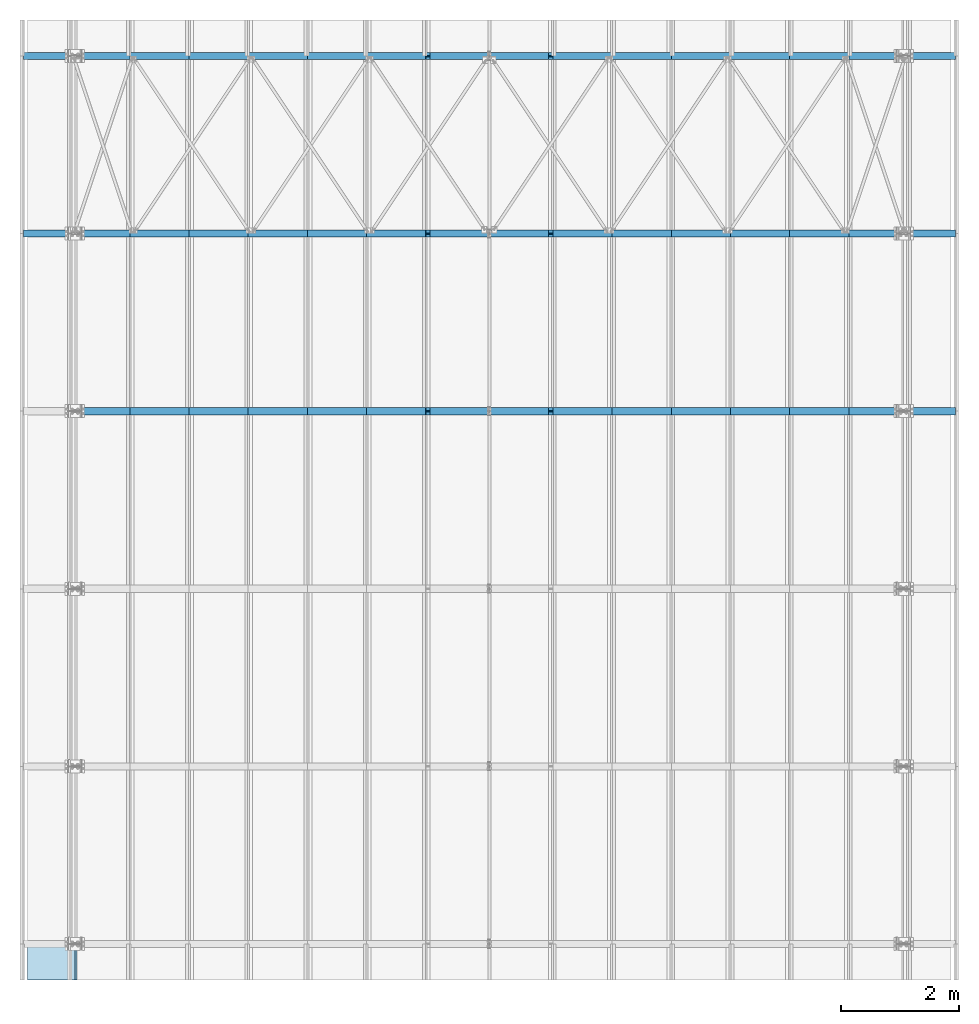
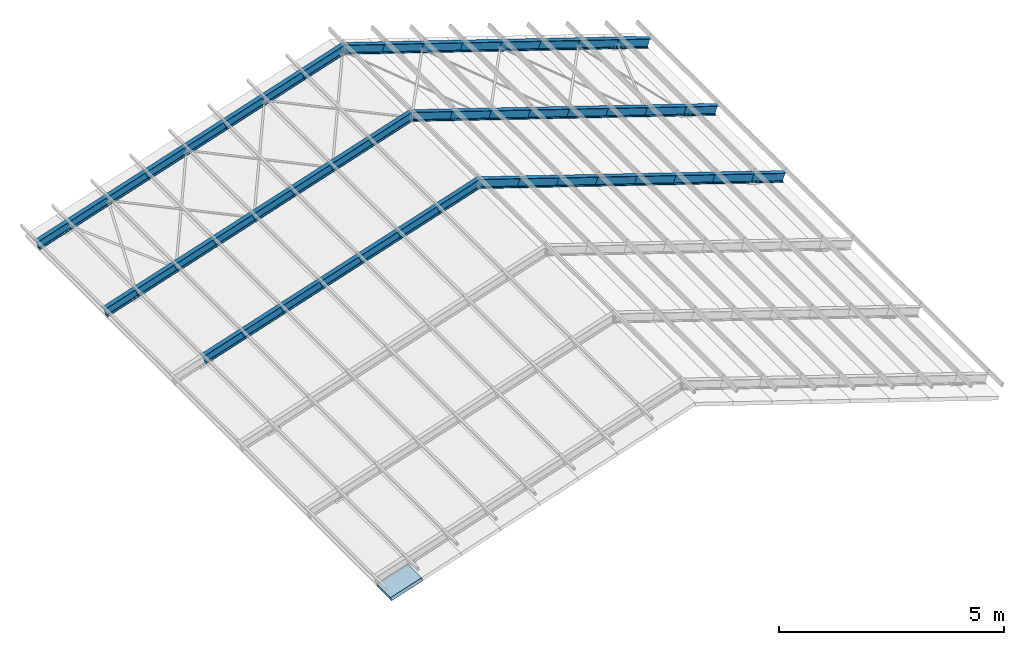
# One storey, part 2 of 53: 47 beams, 1 slab.
"""IFC4 building model written with IfcOpenShell, lengths in metres."""

from ifc_helpers import new_model, si_unit, frame, origin_with_axes, origin_2d_with_axis, place, context, project, spatial, polyline, i_section, l_section, outline, extrude, clip, halfspace, material, material_profile, profile_set, profile_usage, type_object, element, save


model = new_model("IFC4")

# Units and contexts
model_context = context("Model", 3, precision=1e-05, world=origin_with_axes())
ifc_project = project(units=[si_unit("LENGTHUNIT", "METRE"), si_unit("AREAUNIT", "SQUARE_METRE"), si_unit("VOLUMEUNIT", "CUBIC_METRE"), si_unit("MASSUNIT", "GRAM", prefix="KILO"), si_unit("TIMEUNIT", "SECOND"), si_unit("PLANEANGLEUNIT", "RADIAN"), si_unit("SOLIDANGLEUNIT", "STERADIAN"), si_unit("THERMODYNAMICTEMPERATUREUNIT", "DEGREE_CELSIUS")], contexts=[model_context])

# Site, building, storey
placement_1 = place(None, origin_with_axes())
site = spatial("IfcSite", under=ifc_project, at=placement_1, Name="Italia", CompositionType="ELEMENT")
building = spatial("IfcBuilding", under=site, at=placement_1, Name="Capannone", CompositionType="ELEMENT")
storey_placement = place(None, frame((0.0, 0.0, 5.550000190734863), z_axis=(0.0, 0.0, 1.0), x_axis=(1.0, 0.0, 0.0)))
storey = spatial("IfcBuildingStorey", under=building, at=storey_placement, Name="Storey 1", CompositionType="ELEMENT", Elevation=5.550000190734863)

# Beams
ifc_material_1 = material(Name="Acciaio", Category="Acciaio")
ifc_material_profile = material_profile(ifc_material_1, l_section(Depth=0.045, Width=0.045, Thickness=0.004, FilletRadius=0.0, EdgeRadius=0.0, at=origin_2d_with_axis()), Name="2 L45x4")
ifc_profile_set = profile_set([ifc_material_profile])
ifc_profile_usage_1 = profile_usage(ifc_profile_set, cardinal=8)
beam_type_1 = type_object("IfcBeamType", Name="3 IPE240", PredefinedType="BEAM", material=ifc_profile_usage_1)
placement_2 = place(placement_1, origin_with_axes())
beam_1_placement = place(placement_2, origin_with_axes())
element("IfcBeam", 1, at=beam_1_placement, inside=storey, type_object=beam_type_1, Name="105", context=model_context, shape_type="SweptSolid", body=[
    extrude(i_section(OverallWidth=0.12, OverallDepth=0.24, WebThickness=0.0062, FlangeThickness=0.0098, FilletRadius=0.015, at=origin_2d_with_axis()), frame((-0.837458, 12.0, 5.40115), z_axis=(0.950031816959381, 0.0, 0.312153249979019), x_axis=(0.0, 1.0, 0.0)), (0.0, 0.0, 1.0), 0.842077),
])
ifc_profile_usage_2 = profile_usage(ifc_profile_set, cardinal=8)
beam_type_2 = type_object("IfcBeamType", Name="3 IPE240", PredefinedType="BEAM", material=ifc_profile_usage_2)
beam_2_placement = place(placement_2, origin_with_axes())
element("IfcBeam", 2, at=beam_2_placement, inside=storey, type_object=beam_type_2, Name="106", context=model_context, shape_type="SweptSolid", body=[
    extrude(i_section(OverallWidth=0.12, OverallDepth=0.24, WebThickness=0.0062, FlangeThickness=0.0098, FilletRadius=0.015, at=origin_2d_with_axis()), frame((-0.837458, 15.0, 5.40115), z_axis=(0.950031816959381, 0.0, 0.312153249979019), x_axis=(0.0, 1.0, 0.0)), (0.0, 0.0, 1.0), 0.842077),
])
ifc_profile_usage_3 = profile_usage(ifc_profile_set, cardinal=8)
beam_type_3 = type_object("IfcBeamType", Name="3 IPE240", PredefinedType="BEAM", material=ifc_profile_usage_3)
beam_3_placement = place(placement_2, origin_with_axes())
element("IfcBeam", 3, at=beam_3_placement, inside=storey, type_object=beam_type_3, Name="145", context=model_context, shape_type="SweptSolid", body=[
    extrude(i_section(OverallWidth=0.12, OverallDepth=0.24, WebThickness=0.0062, FlangeThickness=0.0098, FilletRadius=0.015, at=origin_2d_with_axis()), frame((14.8375, 15.0, 5.40115), z_axis=(-0.950031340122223, 0.0, 0.31215438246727), x_axis=(0.0, -1.0, 0.0)), (0.0, 0.0, 1.0), 0.842077),
])
ifc_profile_usage_4 = profile_usage(ifc_profile_set, cardinal=8)
beam_type_4 = type_object("IfcBeamType", Name="3 IPE240", PredefinedType="BEAM", material=ifc_profile_usage_4)
beam_4_placement = place(placement_2, origin_with_axes())
element("IfcBeam", 4, at=beam_4_placement, inside=storey, type_object=beam_type_4, Name="144", context=model_context, shape_type="SweptSolid", body=[
    extrude(i_section(OverallWidth=0.12, OverallDepth=0.24, WebThickness=0.0062, FlangeThickness=0.0098, FilletRadius=0.015, at=origin_2d_with_axis()), frame((14.8375, 12.0, 5.40115), z_axis=(-0.950031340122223, 0.0, 0.31215438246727), x_axis=(0.0, -1.0, 0.0)), (0.0, 0.0, 1.0), 0.842077),
])
ifc_profile_usage_5 = profile_usage(ifc_profile_set, cardinal=8)
beam_type_5 = type_object("IfcBeamType", Name="3 IPE240", PredefinedType="BEAM", material=ifc_profile_usage_5)
beam_5_placement = place(placement_2, origin_with_axes())
element("IfcBeam", 5, at=beam_5_placement, inside=storey, type_object=beam_type_5, Name="143", context=model_context, shape_type="SweptSolid", body=[
    extrude(i_section(OverallWidth=0.12, OverallDepth=0.24, WebThickness=0.0062, FlangeThickness=0.0098, FilletRadius=0.015, at=origin_2d_with_axis()), frame((14.8375, 9.0, 5.40115), z_axis=(-0.950031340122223, 0.0, 0.31215438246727), x_axis=(0.0, -1.0, 0.0)), (0.0, 0.0, 1.0), 0.842077),
])
ifc_profile_usage_6 = profile_usage(ifc_profile_set, cardinal=8)
beam_type_6 = type_object("IfcBeamType", Name="3 IPE240", PredefinedType="BEAM", material=ifc_profile_usage_6)
beam_6_placement = place(placement_2, frame((5.962541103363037, 15.0, 7.63543176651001), z_axis=(0.0, 0.0, 1.0), x_axis=(1.0, 0.0, 0.0)))
element("IfcBeam", 6, at=beam_6_placement, inside=storey, type_object=beam_type_6, Name="106", context=model_context, shape_type="Clipping", body=[
    clip(extrude(i_section(OverallWidth=0.12, OverallDepth=0.24, WebThickness=0.0062, FlangeThickness=0.0098, FilletRadius=0.015, at=origin_2d_with_axis()), frame((0.0, 0.0, 0.0), z_axis=(0.950031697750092, 0.0, 0.312153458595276), x_axis=(0.0, 1.0, 0.0)), (0.0, 0.0, 1.0), 1.57889), halfspace(frame((1.05246, -9.53674e-07, 0.335952), z_axis=(1.0, 9.24e-13, 4.6227811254e-05), x_axis=(-9.24e-13, 1.0, 0.0)), False)),
])
ifc_profile_usage_7 = profile_usage(ifc_profile_set, cardinal=8)
beam_type_7 = type_object("IfcBeamType", Name="3 IPE240", PredefinedType="BEAM", material=ifc_profile_usage_7)
beam_7_placement = place(placement_2, origin_with_axes())
element("IfcBeam", 7, at=beam_7_placement, inside=storey, type_object=beam_type_7, Name="106", context=model_context, shape_type="SweptSolid", body=[
    extrude(i_section(OverallWidth=0.12, OverallDepth=0.24, WebThickness=0.0062, FlangeThickness=0.0098, FilletRadius=0.015, at=origin_2d_with_axis()), frame((4.96254, 15.0, 7.30686), z_axis=(0.950031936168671, 0.0, 0.312152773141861), x_axis=(0.0, 1.0, 0.0)), (0.0, 0.0, 1.0), 1.0526),
])
ifc_profile_usage_8 = profile_usage(ifc_profile_set, cardinal=8)
beam_type_8 = type_object("IfcBeamType", Name="3 IPE240", PredefinedType="BEAM", material=ifc_profile_usage_8)
beam_8_placement = place(placement_2, origin_with_axes())
element("IfcBeam", 8, at=beam_8_placement, inside=storey, type_object=beam_type_8, Name="106", context=model_context, shape_type="SweptSolid", body=[
    extrude(i_section(OverallWidth=0.12, OverallDepth=0.24, WebThickness=0.0062, FlangeThickness=0.0098, FilletRadius=0.015, at=origin_2d_with_axis()), frame((3.96254, 15.0, 6.97829), z_axis=(0.950031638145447, 0.0, 0.312153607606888), x_axis=(0.0, 1.0, 0.0)), (0.0, 0.0, 1.0), 1.0526),
])
ifc_profile_usage_9 = profile_usage(ifc_profile_set, cardinal=8)
beam_type_9 = type_object("IfcBeamType", Name="3 IPE240", PredefinedType="BEAM", material=ifc_profile_usage_9)
beam_9_placement = place(placement_2, origin_with_axes())
element("IfcBeam", 9, at=beam_9_placement, inside=storey, type_object=beam_type_9, Name="106", context=model_context, shape_type="SweptSolid", body=[
    extrude(i_section(OverallWidth=0.12, OverallDepth=0.24, WebThickness=0.0062, FlangeThickness=0.0098, FilletRadius=0.015, at=origin_2d_with_axis()), frame((2.96254, 15.0, 6.64972), z_axis=(0.950031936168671, 0.0, 0.312152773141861), x_axis=(0.0, 1.0, 0.0)), (0.0, 0.0, 1.0), 1.0526),
])
ifc_profile_usage_10 = profile_usage(ifc_profile_set, cardinal=8)
beam_type_10 = type_object("IfcBeamType", Name="3 IPE240", PredefinedType="BEAM", material=ifc_profile_usage_10)
beam_10_placement = place(placement_2, origin_with_axes())
element("IfcBeam", 10, at=beam_10_placement, inside=storey, type_object=beam_type_10, Name="106", context=model_context, shape_type="SweptSolid", body=[
    extrude(i_section(OverallWidth=0.12, OverallDepth=0.24, WebThickness=0.0062, FlangeThickness=0.0098, FilletRadius=0.015, at=origin_2d_with_axis()), frame((1.96254, 15.0, 6.32115), z_axis=(0.950031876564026, 0.0, 0.312152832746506), x_axis=(0.0, 1.0, 0.0)), (0.0, 0.0, 1.0), 1.0526),
])
ifc_profile_usage_11 = profile_usage(ifc_profile_set, cardinal=8)
beam_type_11 = type_object("IfcBeamType", Name="3 IPE240", PredefinedType="BEAM", material=ifc_profile_usage_11)
beam_11_placement = place(placement_2, origin_with_axes())
element("IfcBeam", 11, at=beam_11_placement, inside=storey, type_object=beam_type_11, Name="106", context=model_context, shape_type="SweptSolid", body=[
    extrude(i_section(OverallWidth=0.12, OverallDepth=0.24, WebThickness=0.0062, FlangeThickness=0.0098, FilletRadius=0.015, at=origin_2d_with_axis()), frame((0.962542, 15.0, 5.99257), z_axis=(0.950031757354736, 0.0, 0.312153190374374), x_axis=(0.0, 1.0, 0.0)), (0.0, 0.0, 1.0), 1.0526),
])
ifc_profile_usage_12 = profile_usage(ifc_profile_set, cardinal=8)
beam_type_12 = type_object("IfcBeamType", Name="3 IPE240", PredefinedType="BEAM", material=ifc_profile_usage_12)
beam_12_placement = place(placement_2, origin_with_axes())
element("IfcBeam", 12, at=beam_12_placement, inside=storey, type_object=beam_type_12, Name="145", context=model_context, shape_type="SweptSolid", body=[
    extrude(i_section(OverallWidth=0.12, OverallDepth=0.24, WebThickness=0.0062, FlangeThickness=0.0098, FilletRadius=0.015, at=origin_2d_with_axis()), frame((14.0375, 15.0, 5.664), z_axis=(-0.950031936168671, 0.0, 0.312152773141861), x_axis=(0.0, -1.0, 0.0)), (0.0, 0.0, 1.0), 1.0526),
])
ifc_profile_usage_13 = profile_usage(ifc_profile_set, cardinal=8)
beam_type_13 = type_object("IfcBeamType", Name="3 IPE240", PredefinedType="BEAM", material=ifc_profile_usage_13)
beam_13_placement = place(placement_2, origin_with_axes())
element("IfcBeam", 13, at=beam_13_placement, inside=storey, type_object=beam_type_13, Name="145", context=model_context, shape_type="SweptSolid", body=[
    extrude(i_section(OverallWidth=0.12, OverallDepth=0.24, WebThickness=0.0062, FlangeThickness=0.0098, FilletRadius=0.015, at=origin_2d_with_axis()), frame((13.0375, 15.0, 5.99258), z_axis=(-0.950031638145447, 0.0, 0.312153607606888), x_axis=(0.0, -1.0, 0.0)), (0.0, 0.0, 1.0), 1.0526),
])
ifc_profile_usage_14 = profile_usage(ifc_profile_set, cardinal=8)
beam_type_14 = type_object("IfcBeamType", Name="3 IPE240", PredefinedType="BEAM", material=ifc_profile_usage_14)
beam_14_placement = place(placement_2, origin_with_axes())
element("IfcBeam", 14, at=beam_14_placement, inside=storey, type_object=beam_type_14, Name="145", context=model_context, shape_type="SweptSolid", body=[
    extrude(i_section(OverallWidth=0.12, OverallDepth=0.24, WebThickness=0.0062, FlangeThickness=0.0098, FilletRadius=0.015, at=origin_2d_with_axis()), frame((12.0375, 15.0, 6.32115), z_axis=(-0.950031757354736, 0.0, 0.312153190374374), x_axis=(0.0, -1.0, 0.0)), (0.0, 0.0, 1.0), 1.0526),
])
ifc_profile_usage_15 = profile_usage(ifc_profile_set, cardinal=8)
beam_type_15 = type_object("IfcBeamType", Name="3 IPE240", PredefinedType="BEAM", material=ifc_profile_usage_15)
beam_15_placement = place(placement_2, origin_with_axes())
element("IfcBeam", 15, at=beam_15_placement, inside=storey, type_object=beam_type_15, Name="145", context=model_context, shape_type="SweptSolid", body=[
    extrude(i_section(OverallWidth=0.12, OverallDepth=0.24, WebThickness=0.0062, FlangeThickness=0.0098, FilletRadius=0.015, at=origin_2d_with_axis()), frame((11.0375, 15.0, 6.64972), z_axis=(-0.950031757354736, 0.0, 0.312153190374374), x_axis=(0.0, -1.0, 0.0)), (0.0, 0.0, 1.0), 1.0526),
])
ifc_profile_usage_16 = profile_usage(ifc_profile_set, cardinal=8)
beam_type_16 = type_object("IfcBeamType", Name="3 IPE240", PredefinedType="BEAM", material=ifc_profile_usage_16)
beam_16_placement = place(placement_2, origin_with_axes())
element("IfcBeam", 16, at=beam_16_placement, inside=storey, type_object=beam_type_16, Name="145", context=model_context, shape_type="SweptSolid", body=[
    extrude(i_section(OverallWidth=0.12, OverallDepth=0.24, WebThickness=0.0062, FlangeThickness=0.0098, FilletRadius=0.015, at=origin_2d_with_axis()), frame((10.0375, 15.0, 6.97829), z_axis=(-0.950031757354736, 0.0, 0.312153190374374), x_axis=(0.0, -1.0, 0.0)), (0.0, 0.0, 1.0), 1.0526),
])
ifc_profile_usage_17 = profile_usage(ifc_profile_set, cardinal=8)
beam_type_17 = type_object("IfcBeamType", Name="3 IPE240", PredefinedType="BEAM", material=ifc_profile_usage_17)
beam_17_placement = place(placement_2, origin_with_axes())
element("IfcBeam", 17, at=beam_17_placement, inside=storey, type_object=beam_type_17, Name="145", context=model_context, shape_type="SweptSolid", body=[
    extrude(i_section(OverallWidth=0.12, OverallDepth=0.24, WebThickness=0.0062, FlangeThickness=0.0098, FilletRadius=0.015, at=origin_2d_with_axis()), frame((9.03746, 15.0, 7.30686), z_axis=(-0.950031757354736, 0.0, 0.312153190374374), x_axis=(0.0, -1.0, 0.0)), (0.0, 0.0, 1.0), 1.0526),
])
ifc_profile_usage_18 = profile_usage(ifc_profile_set, cardinal=8)
beam_type_18 = type_object("IfcBeamType", Name="3 IPE240", PredefinedType="BEAM", material=ifc_profile_usage_18)
beam_18_placement = place(placement_2, origin_with_axes())
element("IfcBeam", 18, at=beam_18_placement, inside=storey, type_object=beam_type_18, Name="104", context=model_context, shape_type="SweptSolid", body=[
    extrude(i_section(OverallWidth=0.12, OverallDepth=0.24, WebThickness=0.0062, FlangeThickness=0.0098, FilletRadius=0.015, at=origin_2d_with_axis()), frame((-0.0374584, 9.0, 5.664), z_axis=(0.950031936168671, 0.0, 0.312152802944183), x_axis=(0.0, 1.0, 0.0)), (0.0, 0.0, 1.0), 1.0526),
])
ifc_profile_usage_19 = profile_usage(ifc_profile_set, cardinal=8)
beam_type_19 = type_object("IfcBeamType", Name="3 IPE240", PredefinedType="BEAM", material=ifc_profile_usage_19)
beam_19_placement = place(placement_2, origin_with_axes())
element("IfcBeam", 19, at=beam_19_placement, inside=storey, type_object=beam_type_19, Name="104", context=model_context, shape_type="SweptSolid", body=[
    extrude(i_section(OverallWidth=0.12, OverallDepth=0.24, WebThickness=0.0062, FlangeThickness=0.0098, FilletRadius=0.015, at=origin_2d_with_axis()), frame((0.962542, 9.0, 5.99258), z_axis=(0.950031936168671, 0.0, 0.312152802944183), x_axis=(0.0, 1.0, 0.0)), (0.0, 0.0, 1.0), 1.0526),
])
ifc_profile_usage_20 = profile_usage(ifc_profile_set, cardinal=8)
beam_type_20 = type_object("IfcBeamType", Name="3 IPE240", PredefinedType="BEAM", material=ifc_profile_usage_20)
beam_20_placement = place(placement_2, origin_with_axes())
element("IfcBeam", 20, at=beam_20_placement, inside=storey, type_object=beam_type_20, Name="104", context=model_context, shape_type="SweptSolid", body=[
    extrude(i_section(OverallWidth=0.12, OverallDepth=0.24, WebThickness=0.0062, FlangeThickness=0.0098, FilletRadius=0.015, at=origin_2d_with_axis()), frame((1.96254, 9.0, 6.32115), z_axis=(0.950031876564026, 0.0, 0.312152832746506), x_axis=(0.0, 1.0, 0.0)), (0.0, 0.0, 1.0), 1.0526),
])
ifc_profile_usage_21 = profile_usage(ifc_profile_set, cardinal=8)
beam_type_21 = type_object("IfcBeamType", Name="3 IPE240", PredefinedType="BEAM", material=ifc_profile_usage_21)
beam_21_placement = place(placement_2, origin_with_axes())
element("IfcBeam", 21, at=beam_21_placement, inside=storey, type_object=beam_type_21, Name="104", context=model_context, shape_type="SweptSolid", body=[
    extrude(i_section(OverallWidth=0.12, OverallDepth=0.24, WebThickness=0.0062, FlangeThickness=0.0098, FilletRadius=0.015, at=origin_2d_with_axis()), frame((2.96254, 9.0, 6.64972), z_axis=(0.950031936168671, 0.0, 0.312152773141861), x_axis=(0.0, 1.0, 0.0)), (0.0, 0.0, 1.0), 1.0526),
])
ifc_profile_usage_22 = profile_usage(ifc_profile_set, cardinal=8)
beam_type_22 = type_object("IfcBeamType", Name="3 IPE240", PredefinedType="BEAM", material=ifc_profile_usage_22)
beam_22_placement = place(placement_2, origin_with_axes())
element("IfcBeam", 22, at=beam_22_placement, inside=storey, type_object=beam_type_22, Name="104", context=model_context, shape_type="SweptSolid", body=[
    extrude(i_section(OverallWidth=0.12, OverallDepth=0.24, WebThickness=0.0062, FlangeThickness=0.0098, FilletRadius=0.015, at=origin_2d_with_axis()), frame((3.96254, 9.0, 6.97829), z_axis=(0.950031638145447, 0.0, 0.312153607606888), x_axis=(0.0, 1.0, 0.0)), (0.0, 0.0, 1.0), 1.0526),
])
ifc_profile_usage_23 = profile_usage(ifc_profile_set, cardinal=8)
beam_type_23 = type_object("IfcBeamType", Name="3 IPE240", PredefinedType="BEAM", material=ifc_profile_usage_23)
beam_23_placement = place(placement_2, origin_with_axes())
element("IfcBeam", 23, at=beam_23_placement, inside=storey, type_object=beam_type_23, Name="104", context=model_context, shape_type="SweptSolid", body=[
    extrude(i_section(OverallWidth=0.12, OverallDepth=0.24, WebThickness=0.0062, FlangeThickness=0.0098, FilletRadius=0.015, at=origin_2d_with_axis()), frame((4.96254, 9.0, 7.30686), z_axis=(0.950031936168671, 0.0, 0.312152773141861), x_axis=(0.0, 1.0, 0.0)), (0.0, 0.0, 1.0), 1.0526),
])
ifc_profile_usage_24 = profile_usage(ifc_profile_set, cardinal=8)
beam_type_24 = type_object("IfcBeamType", Name="3 IPE240", PredefinedType="BEAM", material=ifc_profile_usage_24)
beam_24_placement = place(placement_2, frame((8.037457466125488, 8.999999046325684, 7.635433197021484), z_axis=(0.0, 0.0, 1.0), x_axis=(1.0, 0.0, 0.0)))
element("IfcBeam", 24, at=beam_24_placement, inside=storey, type_object=beam_type_24, Name="143", context=model_context, shape_type="Clipping", body=[
    clip(extrude(i_section(OverallWidth=0.12, OverallDepth=0.24, WebThickness=0.0062, FlangeThickness=0.0098, FilletRadius=0.015, at=origin_2d_with_axis()), frame((0.0, 0.0, 0.0), z_axis=(-0.950031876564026, 0.0, 0.312152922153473), x_axis=(0.0, -1.0, 0.0)), (0.0, 0.0, 1.0), 1.57889), halfspace(frame((-1.02245, 0.0, 0.335951), z_axis=(1.0, 9.24e-13, 4.6227811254e-05), x_axis=(-9.24e-13, 1.0, 0.0)), True)),
])
ifc_profile_usage_25 = profile_usage(ifc_profile_set, cardinal=8)
beam_type_25 = type_object("IfcBeamType", Name="3 IPE240", PredefinedType="BEAM", material=ifc_profile_usage_25)
beam_25_placement = place(placement_2, origin_with_axes())
element("IfcBeam", 25, at=beam_25_placement, inside=storey, type_object=beam_type_25, Name="143", context=model_context, shape_type="SweptSolid", body=[
    extrude(i_section(OverallWidth=0.12, OverallDepth=0.24, WebThickness=0.0062, FlangeThickness=0.0098, FilletRadius=0.015, at=origin_2d_with_axis()), frame((9.03746, 9.0, 7.30686), z_axis=(-0.950031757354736, 0.0, 0.312153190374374), x_axis=(0.0, -1.0, 0.0)), (0.0, 0.0, 1.0), 1.0526),
])
ifc_profile_usage_26 = profile_usage(ifc_profile_set, cardinal=8)
beam_type_26 = type_object("IfcBeamType", Name="3 IPE240", PredefinedType="BEAM", material=ifc_profile_usage_26)
beam_26_placement = place(placement_2, origin_with_axes())
element("IfcBeam", 26, at=beam_26_placement, inside=storey, type_object=beam_type_26, Name="143", context=model_context, shape_type="SweptSolid", body=[
    extrude(i_section(OverallWidth=0.12, OverallDepth=0.24, WebThickness=0.0062, FlangeThickness=0.0098, FilletRadius=0.015, at=origin_2d_with_axis()), frame((10.0375, 9.0, 6.97829), z_axis=(-0.950031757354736, 0.0, 0.312153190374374), x_axis=(0.0, -1.0, 0.0)), (0.0, 0.0, 1.0), 1.0526),
])
ifc_profile_usage_27 = profile_usage(ifc_profile_set, cardinal=8)
beam_type_27 = type_object("IfcBeamType", Name="3 IPE240", PredefinedType="BEAM", material=ifc_profile_usage_27)
beam_27_placement = place(placement_2, origin_with_axes())
element("IfcBeam", 27, at=beam_27_placement, inside=storey, type_object=beam_type_27, Name="143", context=model_context, shape_type="SweptSolid", body=[
    extrude(i_section(OverallWidth=0.12, OverallDepth=0.24, WebThickness=0.0062, FlangeThickness=0.0098, FilletRadius=0.015, at=origin_2d_with_axis()), frame((11.0375, 9.0, 6.64972), z_axis=(-0.950031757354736, 0.0, 0.312153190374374), x_axis=(0.0, -1.0, 0.0)), (0.0, 0.0, 1.0), 1.0526),
])
ifc_profile_usage_28 = profile_usage(ifc_profile_set, cardinal=8)
beam_type_28 = type_object("IfcBeamType", Name="3 IPE240", PredefinedType="BEAM", material=ifc_profile_usage_28)
beam_28_placement = place(placement_2, origin_with_axes())
element("IfcBeam", 28, at=beam_28_placement, inside=storey, type_object=beam_type_28, Name="143", context=model_context, shape_type="SweptSolid", body=[
    extrude(i_section(OverallWidth=0.12, OverallDepth=0.24, WebThickness=0.0062, FlangeThickness=0.0098, FilletRadius=0.015, at=origin_2d_with_axis()), frame((12.0375, 9.0, 6.32115), z_axis=(-0.950031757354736, 0.0, 0.312153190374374), x_axis=(0.0, -1.0, 0.0)), (0.0, 0.0, 1.0), 1.0526),
])
ifc_profile_usage_29 = profile_usage(ifc_profile_set, cardinal=8)
beam_type_29 = type_object("IfcBeamType", Name="3 IPE240", PredefinedType="BEAM", material=ifc_profile_usage_29)
beam_29_placement = place(placement_2, origin_with_axes())
element("IfcBeam", 29, at=beam_29_placement, inside=storey, type_object=beam_type_29, Name="143", context=model_context, shape_type="SweptSolid", body=[
    extrude(i_section(OverallWidth=0.12, OverallDepth=0.24, WebThickness=0.0062, FlangeThickness=0.0098, FilletRadius=0.015, at=origin_2d_with_axis()), frame((13.0375, 9.0, 5.99258), z_axis=(-0.950031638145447, 0.0, 0.312153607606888), x_axis=(0.0, -1.0, 0.0)), (0.0, 0.0, 1.0), 1.0526),
])
ifc_profile_usage_30 = profile_usage(ifc_profile_set, cardinal=8)
beam_type_30 = type_object("IfcBeamType", Name="3 IPE240", PredefinedType="BEAM", material=ifc_profile_usage_30)
beam_30_placement = place(placement_2, origin_with_axes())
element("IfcBeam", 30, at=beam_30_placement, inside=storey, type_object=beam_type_30, Name="105", context=model_context, shape_type="SweptSolid", body=[
    extrude(i_section(OverallWidth=0.12, OverallDepth=0.24, WebThickness=0.0062, FlangeThickness=0.0098, FilletRadius=0.015, at=origin_2d_with_axis()), frame((-0.0374584, 12.0, 5.664), z_axis=(0.950031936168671, 0.0, 0.312152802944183), x_axis=(0.0, 1.0, 0.0)), (0.0, 0.0, 1.0), 1.0526),
])
ifc_profile_usage_31 = profile_usage(ifc_profile_set, cardinal=8)
beam_type_31 = type_object("IfcBeamType", Name="3 IPE240", PredefinedType="BEAM", material=ifc_profile_usage_31)
beam_31_placement = place(placement_2, origin_with_axes())
element("IfcBeam", 31, at=beam_31_placement, inside=storey, type_object=beam_type_31, Name="105", context=model_context, shape_type="SweptSolid", body=[
    extrude(i_section(OverallWidth=0.12, OverallDepth=0.24, WebThickness=0.0062, FlangeThickness=0.0098, FilletRadius=0.015, at=origin_2d_with_axis()), frame((0.962542, 12.0, 5.99258), z_axis=(0.950031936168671, 0.0, 0.312152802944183), x_axis=(0.0, 1.0, 0.0)), (0.0, 0.0, 1.0), 1.0526),
])
ifc_profile_usage_32 = profile_usage(ifc_profile_set, cardinal=8)
beam_type_32 = type_object("IfcBeamType", Name="3 IPE240", PredefinedType="BEAM", material=ifc_profile_usage_32)
beam_32_placement = place(placement_2, origin_with_axes())
element("IfcBeam", 32, at=beam_32_placement, inside=storey, type_object=beam_type_32, Name="105", context=model_context, shape_type="SweptSolid", body=[
    extrude(i_section(OverallWidth=0.12, OverallDepth=0.24, WebThickness=0.0062, FlangeThickness=0.0098, FilletRadius=0.015, at=origin_2d_with_axis()), frame((1.96254, 12.0, 6.32115), z_axis=(0.950031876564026, 0.0, 0.312152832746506), x_axis=(0.0, 1.0, 0.0)), (0.0, 0.0, 1.0), 1.0526),
])
ifc_profile_usage_33 = profile_usage(ifc_profile_set, cardinal=8)
beam_type_33 = type_object("IfcBeamType", Name="3 IPE240", PredefinedType="BEAM", material=ifc_profile_usage_33)
beam_33_placement = place(placement_2, origin_with_axes())
element("IfcBeam", 33, at=beam_33_placement, inside=storey, type_object=beam_type_33, Name="105", context=model_context, shape_type="SweptSolid", body=[
    extrude(i_section(OverallWidth=0.12, OverallDepth=0.24, WebThickness=0.0062, FlangeThickness=0.0098, FilletRadius=0.015, at=origin_2d_with_axis()), frame((2.96254, 12.0, 6.64972), z_axis=(0.950031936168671, 0.0, 0.312152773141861), x_axis=(0.0, 1.0, 0.0)), (0.0, 0.0, 1.0), 1.0526),
])
ifc_profile_usage_34 = profile_usage(ifc_profile_set, cardinal=8)
beam_type_34 = type_object("IfcBeamType", Name="3 IPE240", PredefinedType="BEAM", material=ifc_profile_usage_34)
beam_34_placement = place(placement_2, origin_with_axes())
element("IfcBeam", 34, at=beam_34_placement, inside=storey, type_object=beam_type_34, Name="105", context=model_context, shape_type="SweptSolid", body=[
    extrude(i_section(OverallWidth=0.12, OverallDepth=0.24, WebThickness=0.0062, FlangeThickness=0.0098, FilletRadius=0.015, at=origin_2d_with_axis()), frame((3.96254, 12.0, 6.97829), z_axis=(0.950031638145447, 0.0, 0.312153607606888), x_axis=(0.0, 1.0, 0.0)), (0.0, 0.0, 1.0), 1.0526),
])
ifc_profile_usage_35 = profile_usage(ifc_profile_set, cardinal=8)
beam_type_35 = type_object("IfcBeamType", Name="3 IPE240", PredefinedType="BEAM", material=ifc_profile_usage_35)
beam_35_placement = place(placement_2, origin_with_axes())
element("IfcBeam", 35, at=beam_35_placement, inside=storey, type_object=beam_type_35, Name="105", context=model_context, shape_type="SweptSolid", body=[
    extrude(i_section(OverallWidth=0.12, OverallDepth=0.24, WebThickness=0.0062, FlangeThickness=0.0098, FilletRadius=0.015, at=origin_2d_with_axis()), frame((4.96254, 12.0, 7.30686), z_axis=(0.950031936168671, 0.0, 0.312152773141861), x_axis=(0.0, 1.0, 0.0)), (0.0, 0.0, 1.0), 1.0526),
])
ifc_profile_usage_36 = profile_usage(ifc_profile_set, cardinal=8)
beam_type_36 = type_object("IfcBeamType", Name="3 IPE240", PredefinedType="BEAM", material=ifc_profile_usage_36)
beam_36_placement = place(placement_2, frame((8.037457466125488, 11.999999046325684, 7.635433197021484), z_axis=(0.0, 0.0, 1.0), x_axis=(1.0, 0.0, 0.0)))
element("IfcBeam", 36, at=beam_36_placement, inside=storey, type_object=beam_type_36, Name="144", context=model_context, shape_type="Clipping", body=[
    clip(extrude(i_section(OverallWidth=0.12, OverallDepth=0.24, WebThickness=0.0062, FlangeThickness=0.0098, FilletRadius=0.015, at=origin_2d_with_axis()), frame((0.0, 0.0, 0.0), z_axis=(-0.950031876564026, 0.0, 0.312152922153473), x_axis=(0.0, -1.0, 0.0)), (0.0, 0.0, 1.0), 1.57889), halfspace(frame((-1.02245, 0.0, 0.335951), z_axis=(1.0, 9.24e-13, 4.6227811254e-05), x_axis=(-9.24e-13, 1.0, 0.0)), True)),
])
ifc_profile_usage_37 = profile_usage(ifc_profile_set, cardinal=8)
beam_type_37 = type_object("IfcBeamType", Name="3 IPE240", PredefinedType="BEAM", material=ifc_profile_usage_37)
beam_37_placement = place(placement_2, origin_with_axes())
element("IfcBeam", 37, at=beam_37_placement, inside=storey, type_object=beam_type_37, Name="144", context=model_context, shape_type="SweptSolid", body=[
    extrude(i_section(OverallWidth=0.12, OverallDepth=0.24, WebThickness=0.0062, FlangeThickness=0.0098, FilletRadius=0.015, at=origin_2d_with_axis()), frame((9.03746, 12.0, 7.30686), z_axis=(-0.950031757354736, 0.0, 0.312153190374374), x_axis=(0.0, -1.0, 0.0)), (0.0, 0.0, 1.0), 1.0526),
])
ifc_profile_usage_38 = profile_usage(ifc_profile_set, cardinal=8)
beam_type_38 = type_object("IfcBeamType", Name="3 IPE240", PredefinedType="BEAM", material=ifc_profile_usage_38)
beam_38_placement = place(placement_2, origin_with_axes())
element("IfcBeam", 38, at=beam_38_placement, inside=storey, type_object=beam_type_38, Name="144", context=model_context, shape_type="SweptSolid", body=[
    extrude(i_section(OverallWidth=0.12, OverallDepth=0.24, WebThickness=0.0062, FlangeThickness=0.0098, FilletRadius=0.015, at=origin_2d_with_axis()), frame((10.0375, 12.0, 6.97829), z_axis=(-0.950031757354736, 0.0, 0.312153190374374), x_axis=(0.0, -1.0, 0.0)), (0.0, 0.0, 1.0), 1.0526),
])
ifc_profile_usage_39 = profile_usage(ifc_profile_set, cardinal=8)
beam_type_39 = type_object("IfcBeamType", Name="3 IPE240", PredefinedType="BEAM", material=ifc_profile_usage_39)
beam_39_placement = place(placement_2, origin_with_axes())
element("IfcBeam", 39, at=beam_39_placement, inside=storey, type_object=beam_type_39, Name="144", context=model_context, shape_type="SweptSolid", body=[
    extrude(i_section(OverallWidth=0.12, OverallDepth=0.24, WebThickness=0.0062, FlangeThickness=0.0098, FilletRadius=0.015, at=origin_2d_with_axis()), frame((11.0375, 12.0, 6.64972), z_axis=(-0.950031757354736, 0.0, 0.312153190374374), x_axis=(0.0, -1.0, 0.0)), (0.0, 0.0, 1.0), 1.0526),
])
ifc_profile_usage_40 = profile_usage(ifc_profile_set, cardinal=8)
beam_type_40 = type_object("IfcBeamType", Name="3 IPE240", PredefinedType="BEAM", material=ifc_profile_usage_40)
beam_40_placement = place(placement_2, origin_with_axes())
element("IfcBeam", 40, at=beam_40_placement, inside=storey, type_object=beam_type_40, Name="144", context=model_context, shape_type="SweptSolid", body=[
    extrude(i_section(OverallWidth=0.12, OverallDepth=0.24, WebThickness=0.0062, FlangeThickness=0.0098, FilletRadius=0.015, at=origin_2d_with_axis()), frame((12.0375, 12.0, 6.32115), z_axis=(-0.950031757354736, 0.0, 0.312153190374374), x_axis=(0.0, -1.0, 0.0)), (0.0, 0.0, 1.0), 1.0526),
])
ifc_profile_usage_41 = profile_usage(ifc_profile_set, cardinal=8)
beam_type_41 = type_object("IfcBeamType", Name="3 IPE240", PredefinedType="BEAM", material=ifc_profile_usage_41)
beam_41_placement = place(placement_2, origin_with_axes())
element("IfcBeam", 41, at=beam_41_placement, inside=storey, type_object=beam_type_41, Name="144", context=model_context, shape_type="SweptSolid", body=[
    extrude(i_section(OverallWidth=0.12, OverallDepth=0.24, WebThickness=0.0062, FlangeThickness=0.0098, FilletRadius=0.015, at=origin_2d_with_axis()), frame((13.0375, 12.0, 5.99258), z_axis=(-0.950031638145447, 0.0, 0.312153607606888), x_axis=(0.0, -1.0, 0.0)), (0.0, 0.0, 1.0), 1.0526),
])
ifc_profile_usage_42 = profile_usage(ifc_profile_set, cardinal=8)
beam_type_42 = type_object("IfcBeamType", Name="3 IPE240", PredefinedType="BEAM", material=ifc_profile_usage_42)
beam_42_placement = place(placement_2, origin_with_axes())
element("IfcBeam", 42, at=beam_42_placement, inside=storey, type_object=beam_type_42, Name="144", context=model_context, shape_type="SweptSolid", body=[
    extrude(i_section(OverallWidth=0.12, OverallDepth=0.24, WebThickness=0.0062, FlangeThickness=0.0098, FilletRadius=0.015, at=origin_2d_with_axis()), frame((14.0375, 12.0, 5.664), z_axis=(-0.950031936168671, 0.0, 0.312152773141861), x_axis=(0.0, -1.0, 0.0)), (0.0, 0.0, 1.0), 1.0526),
])
ifc_profile_usage_43 = profile_usage(ifc_profile_set, cardinal=8)
beam_type_43 = type_object("IfcBeamType", Name="3 IPE240", PredefinedType="BEAM", material=ifc_profile_usage_43)
beam_43_placement = place(placement_2, frame((5.962541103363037, 12.000000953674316, 7.63543176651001), z_axis=(0.0, 0.0, 1.0), x_axis=(1.0, 0.0, 0.0)))
element("IfcBeam", 43, at=beam_43_placement, inside=storey, type_object=beam_type_43, Name="105", context=model_context, shape_type="Clipping", body=[
    clip(extrude(i_section(OverallWidth=0.12, OverallDepth=0.24, WebThickness=0.0062, FlangeThickness=0.0098, FilletRadius=0.015, at=origin_2d_with_axis()), frame((0.0, 0.0, 0.0), z_axis=(0.950031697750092, 0.0, 0.312153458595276), x_axis=(0.0, 1.0, 0.0)), (0.0, 0.0, 1.0), 1.57889), halfspace(frame((1.05246, -1.90735e-06, 0.335952), z_axis=(1.0, 9.24e-13, 4.6227811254e-05), x_axis=(-9.24e-13, 1.0, 0.0)), False)),
])
ifc_profile_usage_44 = profile_usage(ifc_profile_set, cardinal=8)
beam_type_44 = type_object("IfcBeamType", Name="3 IPE240", PredefinedType="BEAM", material=ifc_profile_usage_44)
beam_44_placement = place(placement_2, origin_with_axes())
element("IfcBeam", 44, at=beam_44_placement, inside=storey, type_object=beam_type_44, Name="143", context=model_context, shape_type="SweptSolid", body=[
    extrude(i_section(OverallWidth=0.12, OverallDepth=0.24, WebThickness=0.0062, FlangeThickness=0.0098, FilletRadius=0.015, at=origin_2d_with_axis()), frame((14.0375, 9.0, 5.664), z_axis=(-0.950031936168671, 0.0, 0.312152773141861), x_axis=(0.0, -1.0, 0.0)), (0.0, 0.0, 1.0), 1.0526),
])
ifc_profile_usage_45 = profile_usage(ifc_profile_set, cardinal=8)
beam_type_45 = type_object("IfcBeamType", Name="3 IPE240", PredefinedType="BEAM", material=ifc_profile_usage_45)
beam_45_placement = place(placement_2, frame((5.962541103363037, 9.000000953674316, 7.63543176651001), z_axis=(0.0, 0.0, 1.0), x_axis=(1.0, 0.0, 0.0)))
element("IfcBeam", 45, at=beam_45_placement, inside=storey, type_object=beam_type_45, Name="104", context=model_context, shape_type="Clipping", body=[
    clip(extrude(i_section(OverallWidth=0.12, OverallDepth=0.24, WebThickness=0.0062, FlangeThickness=0.0098, FilletRadius=0.015, at=origin_2d_with_axis()), frame((0.0, 0.0, 0.0), z_axis=(0.950031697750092, 0.0, 0.312153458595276), x_axis=(0.0, 1.0, 0.0)), (0.0, 0.0, 1.0), 1.57889), halfspace(frame((1.05246, -1.90735e-06, 0.335952), z_axis=(1.0, 9.24e-13, 4.6227811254e-05), x_axis=(-9.24e-13, 1.0, 0.0)), False)),
])
ifc_profile_usage_46 = profile_usage(ifc_profile_set, cardinal=8)
beam_type_46 = type_object("IfcBeamType", Name="3 IPE240", PredefinedType="BEAM", material=ifc_profile_usage_46)
beam_46_placement = place(placement_2, frame((8.037457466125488, 15.0, 7.635433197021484), z_axis=(0.0, 0.0, 1.0), x_axis=(1.0, 0.0, 0.0)))
element("IfcBeam", 46, at=beam_46_placement, inside=storey, type_object=beam_type_46, Name="145", context=model_context, shape_type="Clipping", body=[
    clip(extrude(i_section(OverallWidth=0.12, OverallDepth=0.24, WebThickness=0.0062, FlangeThickness=0.0098, FilletRadius=0.015, at=origin_2d_with_axis()), frame((0.0, 0.0, 0.0), z_axis=(-0.950031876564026, 0.0, 0.312152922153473), x_axis=(0.0, -1.0, 0.0)), (0.0, 0.0, 1.0), 1.57889), halfspace(frame((-1.02245, -9.53674e-07, 0.335951), z_axis=(1.0, 9.24e-13, 4.6227811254e-05), x_axis=(-9.24e-13, 1.0, 0.0)), True)),
])
ifc_profile_usage_47 = profile_usage(ifc_profile_set, cardinal=8)
beam_type_47 = type_object("IfcBeamType", Name="3 IPE240", PredefinedType="BEAM", material=ifc_profile_usage_47)
beam_47_placement = place(placement_2, origin_with_axes())
element("IfcBeam", 47, at=beam_47_placement, inside=storey, type_object=beam_type_47, Name="106", context=model_context, shape_type="SweptSolid", body=[
    extrude(i_section(OverallWidth=0.12, OverallDepth=0.24, WebThickness=0.0062, FlangeThickness=0.0098, FilletRadius=0.015, at=origin_2d_with_axis()), frame((-0.0374583, 15.0, 5.664), z_axis=(0.950031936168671, 0.0, 0.312152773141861), x_axis=(0.0, 1.0, 0.0)), (0.0, 0.0, 1.0), 1.0526),
])

# Slab
ifc_material_2 = material(Name="Concrete", Category="Concrete")
slab_type = type_object("IfcSlabType", Name="1 Copertura", PredefinedType="FLOOR", material=ifc_material_2)
slab_placement = place(placement_2, origin_with_axes())
element("IfcSlab", 48, at=slab_placement, inside=storey, type_object=slab_type, Name="134", context=model_context, shape_type="SweptSolid", body=[
    extrude(outline(polyline([(0.0, 0.0), (0.61, 0.0), (0.61, 0.842077), (0.0, 0.842077), (0.0, 0.0)])), frame((-0.8, -0.61, 5.28714), z_axis=(0.312153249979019, 0.0, -0.950031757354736), x_axis=(0.0, 1.0, 0.0)), (0.0, 0.0, 1.0), 0.0999999),
])

save(model, "model.ifc")
